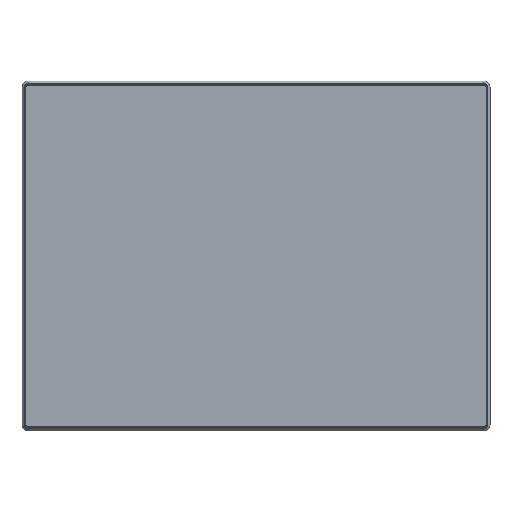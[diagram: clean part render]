
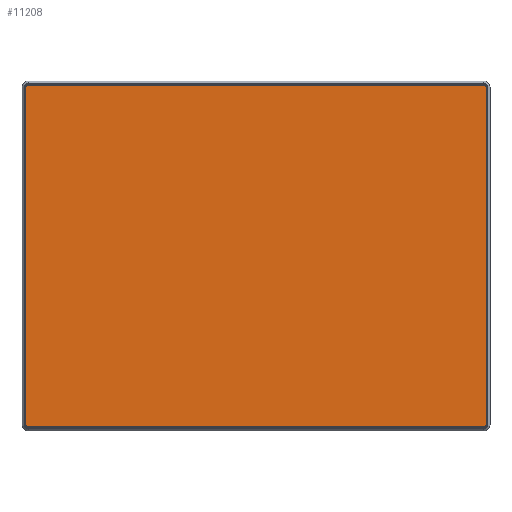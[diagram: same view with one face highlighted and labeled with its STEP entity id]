
A CAD part, top view. The second image highlights one B-rep face of the part: STEP entity #11208.
In plain terms, the highlighted planar face has unit normal (0, 0, 1).
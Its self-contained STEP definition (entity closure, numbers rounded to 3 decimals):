
#4106=DIRECTION('',(0.,1.,0.));
#4107=VECTOR('',#4106,222.5);
#4108=CARTESIAN_POINT('',(-151.7,-111.25,
7.7));
#4109=LINE('',#4108,#4107);
#4110=CARTESIAN_POINT('',(-150.25,111.25,7.7));
#4111=DIRECTION('',(0.,0.,-1.));
#4112=DIRECTION('',(-1.,0.,0.));
#4113=AXIS2_PLACEMENT_3D('',#4110,#4111,#4112);
#4115=DIRECTION('',(1.,0.,0.));
#4116=VECTOR('',#4115,300.5);
#4117=CARTESIAN_POINT('',(-150.25,112.7,7.7));
#4118=LINE('',#4117,#4116);
#4119=CARTESIAN_POINT('',(150.25,111.25,7.7));
#4120=DIRECTION('',(0.,0.,-1.));
#4121=DIRECTION('',(0.,1.,0.));
#4122=AXIS2_PLACEMENT_3D('',#4119,#4120,#4121);
#4124=DIRECTION('',(0.,-1.,0.));
#4125=VECTOR('',#4124,222.5);
#4126=CARTESIAN_POINT('',(151.7,111.25,7.7));
#4127=LINE('',#4126,#4125);
#4128=CARTESIAN_POINT('',(150.25,-111.25,7.7));
#4129=DIRECTION('',(0.,0.,-1.));
#4130=DIRECTION('',(1.,0.,0.));
#4131=AXIS2_PLACEMENT_3D('',#4128,#4129,#4130);
#4133=DIRECTION('',(-1.,0.,0.));
#4134=VECTOR('',#4133,300.5);
#4135=CARTESIAN_POINT('',(150.25,-112.7,7.7));
#4136=LINE('',#4135,#4134);
#4137=CARTESIAN_POINT('',(-150.25,-111.25,7.7));
#4138=DIRECTION('',(0.,0.,-1.));
#4139=DIRECTION('',(0.,-1.,0.));
#4140=AXIS2_PLACEMENT_3D('',#4137,#4138,#4139);
#5440=CARTESIAN_POINT('',(-151.7,111.25,7.7));
#5441=CARTESIAN_POINT('',(-150.25,112.7,7.7));
#5442=VERTEX_POINT('',#5440);
#5443=VERTEX_POINT('',#5441);
#5444=CARTESIAN_POINT('',(-151.7,-111.25,
7.7));
#5445=VERTEX_POINT('',#5444);
#5446=CARTESIAN_POINT('',(150.25,112.7,7.7));
#5447=VERTEX_POINT('',#5446);
#5448=CARTESIAN_POINT('',(151.7,111.25,7.7));
#5449=VERTEX_POINT('',#5448);
#5450=CARTESIAN_POINT('',(151.7,-111.25,7.7));
#5451=VERTEX_POINT('',#5450);
#5452=CARTESIAN_POINT('',(150.25,-112.7,7.7));
#5453=VERTEX_POINT('',#5452);
#5454=CARTESIAN_POINT('',(-150.25,-112.7,
7.7));
#5455=VERTEX_POINT('',#5454);
#11186=CARTESIAN_POINT('',(0.,0.,7.7));
#11187=DIRECTION('',(0.,0.,1.));
#11188=DIRECTION('',(1.,0.,0.));
#11189=AXIS2_PLACEMENT_3D('',#11186,#11187,#11188);
#11190=PLANE('',#11189);
#11192=ORIENTED_EDGE('',*,*,#11191,.T.);
#11193=ORIENTED_EDGE('',*,*,#11176,.T.);
#11195=ORIENTED_EDGE('',*,*,#11194,.T.);
#11197=ORIENTED_EDGE('',*,*,#11196,.T.);
#11199=ORIENTED_EDGE('',*,*,#11198,.T.);
#11201=ORIENTED_EDGE('',*,*,#11200,.T.);
#11203=ORIENTED_EDGE('',*,*,#11202,.T.);
#11205=ORIENTED_EDGE('',*,*,#11204,.T.);
#11206=EDGE_LOOP('',(#11192,#11193,#11195,#11197,#11199,#11201,#11203,#11205));
#11207=FACE_OUTER_BOUND('',#11206,.F.);
#11208=ADVANCED_FACE('',(#11207),#11190,.T.);
#4114=CIRCLE('',#4113,1.45);
#4123=CIRCLE('',#4122,1.45);
#4132=CIRCLE('',#4131,1.45);
#4141=CIRCLE('',#4140,1.45);
#11176=EDGE_CURVE('',#5442,#5443,#4114,.T.);
#11191=EDGE_CURVE('',#5445,#5442,#4109,.T.);
#11194=EDGE_CURVE('',#5443,#5447,#4118,.T.);
#11196=EDGE_CURVE('',#5447,#5449,#4123,.T.);
#11198=EDGE_CURVE('',#5449,#5451,#4127,.T.);
#11200=EDGE_CURVE('',#5451,#5453,#4132,.T.);
#11202=EDGE_CURVE('',#5453,#5455,#4136,.T.);
#11204=EDGE_CURVE('',#5455,#5445,#4141,.T.);
